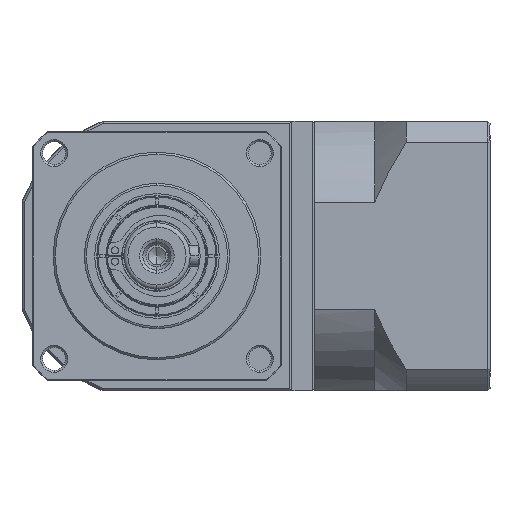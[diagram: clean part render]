
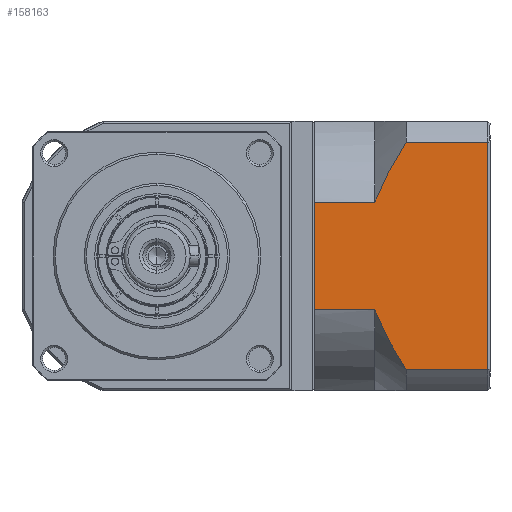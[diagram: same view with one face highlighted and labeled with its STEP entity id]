
A CAD part, left-side view. The second image highlights one B-rep face of the part: STEP entity #158163.
In plain terms, the highlighted planar face has unit normal (-1, 0, 0).
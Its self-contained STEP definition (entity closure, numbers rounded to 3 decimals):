
#862 = LINE ( 'NONE', #54611, #63021 ) ;
#2401 = CARTESIAN_POINT ( 'NONE',  ( -22.541, -100.746, -123.37 ) ) ;
#4089 = DIRECTION ( 'NONE',  ( 0., -1., 0. ) ) ;
#5225 = EDGE_CURVE ( 'NONE', #21284, #11551, #129371, .T. ) ;
#8727 = DIRECTION ( 'NONE',  ( 1., 0., 0. ) ) ;
#11551 = VERTEX_POINT ( 'NONE', #32325 ) ;
#15357 = VERTEX_POINT ( 'NONE', #145982 ) ;
#15990 = EDGE_CURVE ( 'NONE', #50395, #151212, #92842, .T. ) ;
#21284 = VERTEX_POINT ( 'NONE', #55008 ) ;
#22104 = CARTESIAN_POINT ( 'NONE',  ( -22.541, -86.246, -123.37 ) ) ;
#22690 = DIRECTION ( 'NONE',  ( 0., 0., 1. ) ) ;
#24125 = CARTESIAN_POINT ( 'NONE',  ( -22.541, -101.762, -125.913 ) ) ;
#30063 = CARTESIAN_POINT ( 'NONE',  ( -22.541, -100.746, -123.37 ) ) ;
#32325 = CARTESIAN_POINT ( 'NONE',  ( -22.541, -100.746, -97.39 ) ) ;
#36672 = CARTESIAN_POINT ( 'NONE',  ( -22.541, -102.886, -128.391 ) ) ;
#36874 = VERTEX_POINT ( 'NONE', #2401 ) ;
#39211 = B_SPLINE_CURVE_WITH_KNOTS ( 'NONE', 3,
 ( #160050, #73500, #98344, #24125, #110836, #36672, #123246, #49129, #135755, #61556 ),
 .UNSPECIFIED., .F., .F.,
 ( 4, 2, 2, 2, 4 ),
 ( 0.101, 0.103, 0.105, 0.109, 0.117 ),
 .UNSPECIFIED. ) ;
#43750 = DIRECTION ( 'NONE',  ( 0., -1., 0. ) ) ;
#47908 = CARTESIAN_POINT ( 'NONE',  ( -22.541, -127.946, -82.994 ) ) ;
#49129 = CARTESIAN_POINT ( 'NONE',  ( -22.541, -105.396, -133.184 ) ) ;
#50395 = VERTEX_POINT ( 'NONE', #158968 ) ;
#51518 = DIRECTION ( 'NONE',  ( 0., 0., -1. ) ) ;
#52872 = VECTOR ( 'NONE', #74727, 1000. ) ;
#53185 = CARTESIAN_POINT ( 'NONE',  ( -22.541, -108.246, -137.766 ) ) ;
#54611 = CARTESIAN_POINT ( 'NONE',  ( -22.541, -100.746, -97.39 ) ) ;
#55008 = CARTESIAN_POINT ( 'NONE',  ( -22.541, -108.246, -82.994 ) ) ;
#56435 = ORIENTED_EDGE ( 'NONE', *, *, #117043, .F. ) ;
#61556 = CARTESIAN_POINT ( 'NONE',  ( -22.541, -108.246, -137.766 ) ) ;
#63021 = VECTOR ( 'NONE', #43750, 1000. ) ;
#65978 = VECTOR ( 'NONE', #22690, 1000. ) ;
#66098 = ORIENTED_EDGE ( 'NONE', *, *, #5225, .T. ) ;
#67124 = LINE ( 'NONE', #30063, #132964 ) ;
#68204 = EDGE_CURVE ( 'NONE', #36874, #151212, #67124, .T. ) ;
#69281 = EDGE_CURVE ( 'NONE', #36874, #137517, #39211, .T. ) ;
#70968 = VECTOR ( 'NONE', #4089, 1000. ) ;
#71843 = ORIENTED_EDGE ( 'NONE', *, *, #83604, .F. ) ;
#73500 = CARTESIAN_POINT ( 'NONE',  ( -22.541, -100.984, -124.013 ) ) ;
#74727 = DIRECTION ( 'NONE',  ( 0., 1., 0. ) ) ;
#79438 = ORIENTED_EDGE ( 'NONE', *, *, #118738, .F. ) ;
#80796 = CARTESIAN_POINT ( 'NONE',  ( -22.541, -100.746, -97.39 ) ) ;
#81209 = CARTESIAN_POINT ( 'NONE',  ( -22.541, -101.688, -94.852 ) ) ;
#81743 = CARTESIAN_POINT ( 'NONE',  ( -22.541, -102.832, -92.4 ) ) ;
#82261 = CARTESIAN_POINT ( 'NONE',  ( -22.541, -104.743, -88.804 ) ) ;
#82555 = CARTESIAN_POINT ( 'NONE',  ( -22.541, -105.413, -87.618 ) ) ;
#83025 = CARTESIAN_POINT ( 'NONE',  ( -22.541, -128.446, -142.88 ) ) ;
#83513 = CARTESIAN_POINT ( 'NONE',  ( -22.541, -107.512, -84.132 ) ) ;
#83604 = EDGE_CURVE ( 'NONE', #21284, #131818, #136805, .T. ) ;
#84683 = CARTESIAN_POINT ( 'NONE',  ( -22.541, -106.797, -85.283 ) ) ;
#88255 = CARTESIAN_POINT ( 'NONE',  ( -22.541, -108.246, -82.994 ) ) ;
#92842 = LINE ( 'NONE', #125638, #121897 ) ;
#94861 = PLANE ( 'NONE',  #128906 ) ;
#95409 = DIRECTION ( 'NONE',  ( 0., 1., 0. ) ) ;
#96879 = CARTESIAN_POINT ( 'NONE',  ( -22.541, -127.946, -142.88 ) ) ;
#98344 = CARTESIAN_POINT ( 'NONE',  ( -22.541, -101.237, -124.652 ) ) ;
#108936 = ORIENTED_EDGE ( 'NONE', *, *, #69281, .T. ) ;
#110836 = CARTESIAN_POINT ( 'NONE',  ( -22.541, -102.036, -126.537 ) ) ;
#111374 = FACE_OUTER_BOUND ( 'NONE', #118021, .T. ) ;
#116710 = DIRECTION ( 'NONE',  ( 0., 1., 0. ) ) ;
#117043 = EDGE_CURVE ( 'NONE', #50395, #11551, #862, .T. ) ;
#118021 = EDGE_LOOP ( 'NONE', ( #79438, #131827, #71843, #66098, #56435, #128198, #151532, #108936 ) ) ;
#118723 = LINE ( 'NONE', #123410, #52872 ) ;
#118738 = EDGE_CURVE ( 'NONE', #15357, #137517, #118723, .T. ) ;
#121897 = VECTOR ( 'NONE', #51518, 1000. ) ;
#123246 = CARTESIAN_POINT ( 'NONE',  ( -22.541, -103.492, -129.603 ) ) ;
#123410 = CARTESIAN_POINT ( 'NONE',  ( -22.541, -100.746, -137.766 ) ) ;
#125638 = CARTESIAN_POINT ( 'NONE',  ( -22.541, -86.246, -142.88 ) ) ;
#128198 = ORIENTED_EDGE ( 'NONE', *, *, #15990, .T. ) ;
#128906 = AXIS2_PLACEMENT_3D ( 'NONE', #83025, #8727, #95409 ) ;
#129371 = B_SPLINE_CURVE_WITH_KNOTS ( 'NONE', 3,
 ( #88255, #83513, #84683, #82555, #82261, #81743, #81209, #80796 ),
 .UNSPECIFIED., .F., .F.,
 ( 4, 2, 2, 4 ),
 ( 0.058, 0.062, 0.066, 0.074 ),
 .UNSPECIFIED. ) ;
#131818 = VERTEX_POINT ( 'NONE', #47908 ) ;
#131827 = ORIENTED_EDGE ( 'NONE', *, *, #134808, .T. ) ;
#132964 = VECTOR ( 'NONE', #116710, 1000. ) ;
#134808 = EDGE_CURVE ( 'NONE', #15357, #131818, #160821, .T. ) ;
#135755 = CARTESIAN_POINT ( 'NONE',  ( -22.541, -106.784, -135.498 ) ) ;
#136805 = LINE ( 'NONE', #153103, #70968 ) ;
#137517 = VERTEX_POINT ( 'NONE', #53185 ) ;
#145982 = CARTESIAN_POINT ( 'NONE',  ( -22.541, -127.946, -137.766 ) ) ;
#151212 = VERTEX_POINT ( 'NONE', #22104 ) ;
#151532 = ORIENTED_EDGE ( 'NONE', *, *, #68204, .F. ) ;
#153103 = CARTESIAN_POINT ( 'NONE',  ( -22.541, -100.746, -82.994 ) ) ;
#158163 = ADVANCED_FACE ( 'NONE', ( #111374 ), #94861, .F. ) ;
#158968 = CARTESIAN_POINT ( 'NONE',  ( -22.541, -86.246, -97.39 ) ) ;
#160050 = CARTESIAN_POINT ( 'NONE',  ( -22.541, -100.746, -123.37 ) ) ;
#160821 = LINE ( 'NONE', #96879, #65978 ) ;
